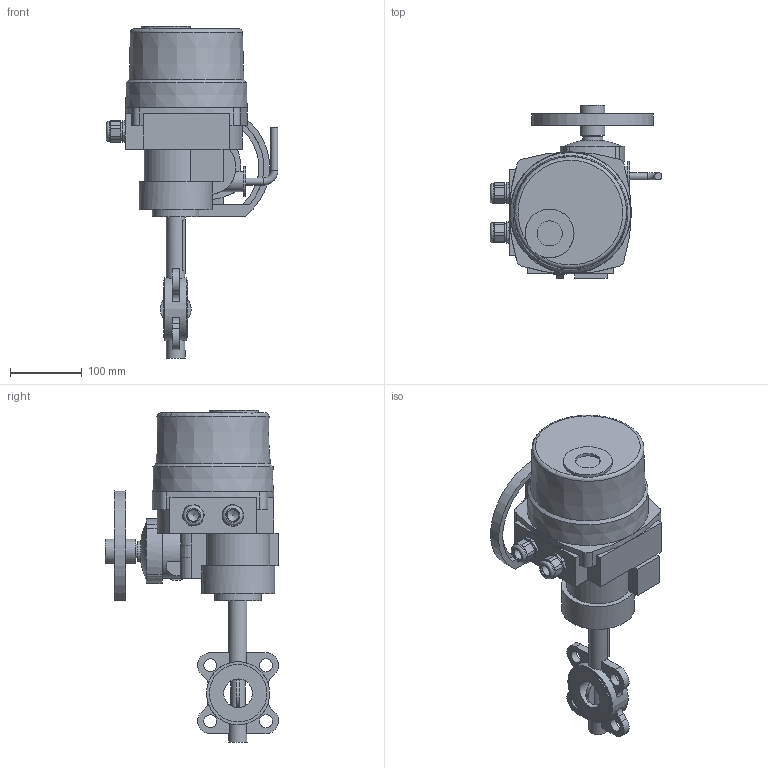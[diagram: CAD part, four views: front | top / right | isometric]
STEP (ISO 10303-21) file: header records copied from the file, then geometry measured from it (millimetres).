
FILE_DESCRIPTION(('STEP AP203'), '1');
FILE_NAME('青蜮铕 017WDN40+菹 QT5-1', '', ('UNSPECIFIED'), ('UNSPECIFIED'), 'ASCON STEP Converter 1.6', 'ASCON Math Kernel', '');
FILE_SCHEMA(('CONFIG_CONTROL_DESIGN'));
Length unit declared in the file: millimetre
Bounding box: 239.5 x 241.36 x 463 mm (x, y, z)
Volume: 5072498.8 mm3; surface area: 321624.9 mm2
Topology: 2 solids, 3 shells, 787 faces, 2232 edges, 1432 vertices
Faces by surface type: cylinder 499, plane 273, cone 9, torus 5, bspline 1
Full cylindrical faces by diameter (mm): 4.917 x4, 8 x4, 10 x2, 12.6 x1, 16 x2, 17 x2, 18 x4, 20 x2, 22.835 x2, 25 x2, 26 x2, 28 x3, 28.026 x1, 34 x2, 35 x2, 40 x2, 42 x1, 65 x1, 68 x1, 80 x2, 88 x1, 102 x1
Entity records: 33086 total; most frequent: CARTESIAN_POINT 5566, DIRECTION 4804, ORIENTED_EDGE 4275, EDGE_CURVE 2169, AXIS2_PLACEMENT_3D 1877, VERTEX_POINT 1426, CIRCLE 1090, LINE 1050
